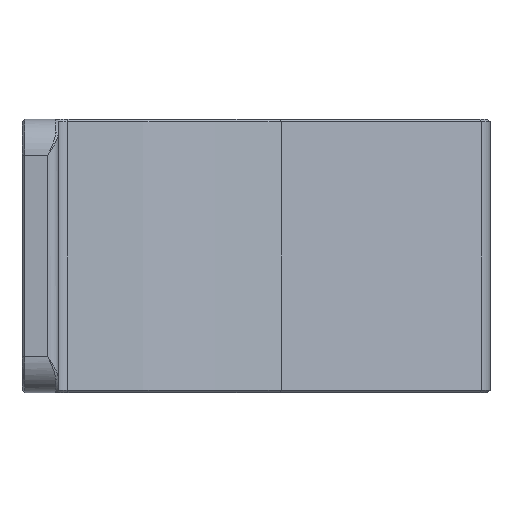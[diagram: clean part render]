
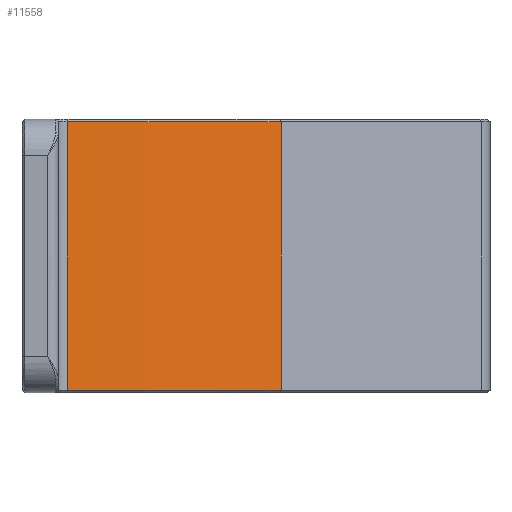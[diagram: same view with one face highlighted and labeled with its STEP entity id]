
A CAD part, left-side view. The second image highlights one B-rep face of the part: STEP entity #11558.
In plain terms, the highlighted cylindrical face has radius 87.95 mm (diameter 175.9 mm), a partial arc.
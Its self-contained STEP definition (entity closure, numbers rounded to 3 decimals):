
#449 = VERTEX_POINT ( 'NONE', #45941 ) ;
#1290 = CARTESIAN_POINT ( 'NONE',  ( 0., 0., 26.5 ) ) ;
#5757 = VERTEX_POINT ( 'NONE', #50660 ) ;
#9453 = DIRECTION ( 'NONE',  ( 1., 0., 0. ) ) ;
#11558 = ADVANCED_FACE ( 'NONE', ( #61527 ), #50715, .T. ) ;
#11694 = VECTOR ( 'NONE', #70532, 1000. ) ;
#13763 = VERTEX_POINT ( 'NONE', #68027 ) ;
#13859 = EDGE_LOOP ( 'NONE', ( #41063, #44420, #36016, #47222 ) ) ;
#14607 = CARTESIAN_POINT ( 'NONE',  ( -87.36, -10.169, 26.5 ) ) ;
#16363 = CIRCLE ( 'NONE', #46333, 87.95 ) ;
#23281 = DIRECTION ( 'NONE',  ( 0., 0., -1. ) ) ;
#25468 = EDGE_CURVE ( 'NONE', #449, #57677, #31170, .T. ) ;
#31170 = LINE ( 'NONE', #14607, #11694 ) ;
#36016 = ORIENTED_EDGE ( 'NONE', *, *, #25468, .T. ) ;
#39654 = LINE ( 'NONE', #40010, #69187 ) ;
#40010 = CARTESIAN_POINT ( 'NONE',  ( -71.262, -51.546, 26.5 ) ) ;
#41063 = ORIENTED_EDGE ( 'NONE', *, *, #60763, .F. ) ;
#42978 = CARTESIAN_POINT ( 'NONE',  ( 0., 0., 26. ) ) ;
#44420 = ORIENTED_EDGE ( 'NONE', *, *, #70800, .T. ) ;
#45304 = DIRECTION ( 'NONE',  ( -1., 0., 0. ) ) ;
#45941 = CARTESIAN_POINT ( 'NONE',  ( -87.36, -10.169, 26. ) ) ;
#46120 = CARTESIAN_POINT ( 'NONE',  ( -87.36, -10.169, -26. ) ) ;
#46333 = AXIS2_PLACEMENT_3D ( 'NONE', #42978, #48045, #65009 ) ;
#47222 = ORIENTED_EDGE ( 'NONE', *, *, #63936, .T. ) ;
#47283 = AXIS2_PLACEMENT_3D ( 'NONE', #1290, #23281, #45304 ) ;
#47673 = CARTESIAN_POINT ( 'NONE',  ( 0., 0., -26. ) ) ;
#48045 = DIRECTION ( 'NONE',  ( 0., 0., -1. ) ) ;
#48473 = AXIS2_PLACEMENT_3D ( 'NONE', #47673, #58834, #9453 ) ;
#50660 = CARTESIAN_POINT ( 'NONE',  ( -71.262, -51.546, 26. ) ) ;
#50715 = CYLINDRICAL_SURFACE ( 'NONE', #47283, 87.95 ) ;
#51216 = DIRECTION ( 'NONE',  ( 0., 0., -1. ) ) ;
#57677 = VERTEX_POINT ( 'NONE', #46120 ) ;
#58834 = DIRECTION ( 'NONE',  ( 0., 0., 1. ) ) ;
#60763 = EDGE_CURVE ( 'NONE', #5757, #13763, #39654, .T. ) ;
#61133 = CIRCLE ( 'NONE', #48473, 87.95 ) ;
#61527 = FACE_OUTER_BOUND ( 'NONE', #13859, .T. ) ;
#63936 = EDGE_CURVE ( 'NONE', #57677, #13763, #61133, .T. ) ;
#65009 = DIRECTION ( 'NONE',  ( 1., 0., 0. ) ) ;
#68027 = CARTESIAN_POINT ( 'NONE',  ( -71.262, -51.546, -26. ) ) ;
#69187 = VECTOR ( 'NONE', #51216, 1000. ) ;
#70532 = DIRECTION ( 'NONE',  ( 0., 0., -1. ) ) ;
#70800 = EDGE_CURVE ( 'NONE', #5757, #449, #16363, .T. ) ;
